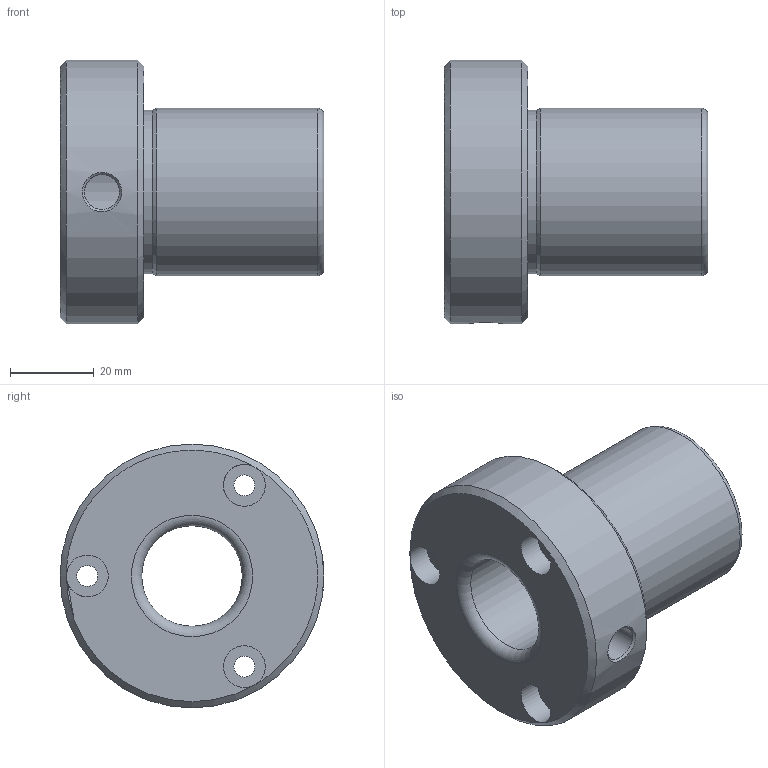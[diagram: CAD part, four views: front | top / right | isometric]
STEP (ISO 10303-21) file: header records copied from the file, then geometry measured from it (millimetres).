
FILE_DESCRIPTION(/* description */ ('Impex Ready, www.impex-ready.pl'),/* implementation_level */ '2;1');
FILE_NAME(/* name */ 'C:\Users\VIKKY\Nextcloud\SM\projekt 10 - części na stronę internetową\Pliki_3D_new\289 Tuleje B5\289_B5_STEP\B524.ipt.step',/* time_stamp */ '2021-12-21T12:37:11+01:00',/* author */ ('SM'),/* organization */ (''),/* preprocessor_version */ 'ST-DEVELOPER v18.1',/* originating_system */ 'Autodesk Inventor 2021',/* authorisation */ '');
FILE_SCHEMA (('AUTOMOTIVE_DESIGN { 1 0 10303 214 3 1 1 }'));
Length unit declared in the file: millimetre
Products named in the file (1): B524
Bounding box: 63 x 63 x 63 mm (x, y, z)
Volume: 83814 mm3; surface area: 20442.7 mm2
Topology: 1 solids, 1 shells, 24 faces, 62 edges, 39 vertices
Faces by surface type: cylinder 11, plane 6, torus 3, cone 3, bspline 1
Full cylindrical faces by diameter (mm): 5 x3, 8.376 x1, 10 x3, 24 x1, 39 x1, 40 x1, 63 x1
Entity records: 1016 total; most frequent: CARTESIAN_POINT 308, DIRECTION 141, ORIENTED_EDGE 124, EDGE_CURVE 62, AXIS2_PLACEMENT_3D 62, VERTEX_POINT 39, CIRCLE 38, EDGE_LOOP 33
